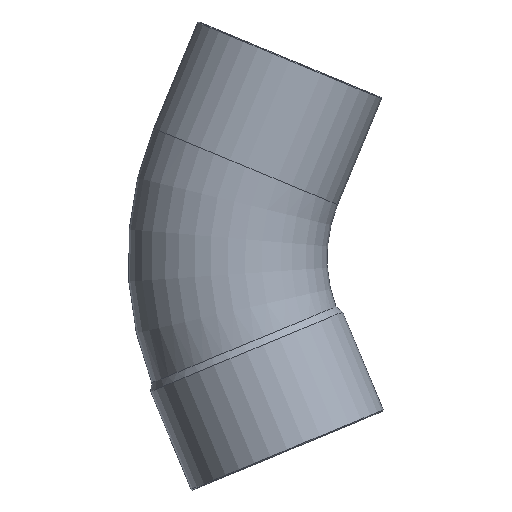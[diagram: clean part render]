
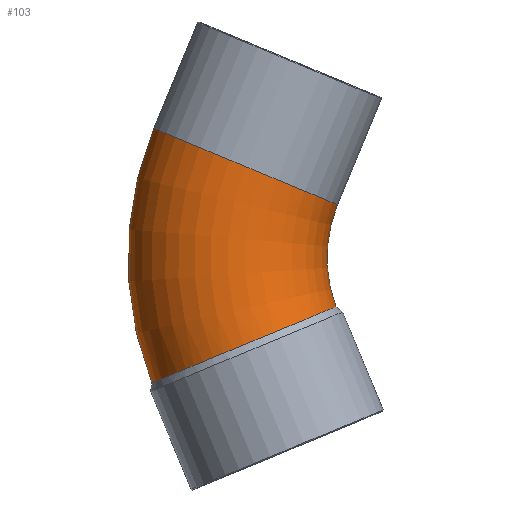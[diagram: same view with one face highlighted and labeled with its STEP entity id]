
A CAD part, front view. The second image highlights one B-rep face of the part: STEP entity #103.
In plain terms, the highlighted toroidal (fillet/blend) face has major radius 76.8 mm and minor radius 32 mm.
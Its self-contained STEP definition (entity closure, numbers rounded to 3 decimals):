
#44=CARTESIAN_POINT('',(4.435,0.,0.));
#45=DIRECTION('',(0.,1.0,0.));
#46=DIRECTION('',(-0.383,0.,0.924));
#47=AXIS2_PLACEMENT_3D('',#44,#45,#46);
#48=TOROIDAL_SURFACE('',#47,76.8,32.0);
#49=CARTESIAN_POINT('',(-96.697,0.,-40.123));
#50=VERTEX_POINT('',#49);
#51=CARTESIAN_POINT('',(-96.083,0.,41.636));
#52=VERTEX_POINT('',#51);
#53=CARTESIAN_POINT('',(4.435,0.,0.));
#54=DIRECTION('',(0.0,1.0,0.0));
#55=DIRECTION('',(0.0,0.0,1.0));
#56=AXIS2_PLACEMENT_3D('',#53,#54,#55);
#57=CIRCLE('',#56,108.8);
#58=EDGE_CURVE('',#50,#52,#57,.T.);
#59=ORIENTED_EDGE('',*,*,#58,.F.);
#60=CARTESIAN_POINT('',(-37.528,0.,-15.689));
#61=VERTEX_POINT('',#60);
#62=CARTESIAN_POINT('',(-96.697,0.,-40.123));
#63=CARTESIAN_POINT('',(-96.697,-2.359,-40.123));
#64=CARTESIAN_POINT('',(-96.456,-4.711,-40.023));
#65=CARTESIAN_POINT('',(-95.5,-9.314,-39.628));
#66=CARTESIAN_POINT('',(-94.788,-11.552,-39.333));
#67=CARTESIAN_POINT('',(-92.209,-17.451,-38.267));
#68=CARTESIAN_POINT('',(-89.898,-20.834,-37.311));
#69=CARTESIAN_POINT('',(-84.208,-26.45,-34.958));
#70=CARTESIAN_POINT('',(-80.882,-28.63,-33.583));
#71=CARTESIAN_POINT('',(-73.645,-31.489,-30.591));
#72=CARTESIAN_POINT('',(-69.803,-32.139,-29.003));
#73=CARTESIAN_POINT('',(-62.103,-31.811,-25.822));
#74=CARTESIAN_POINT('',(-58.319,-30.834,-24.26));
#75=CARTESIAN_POINT('',(-51.311,-27.367,-21.367));
#76=CARTESIAN_POINT('',(-48.152,-24.91,-20.065));
#77=CARTESIAN_POINT('',(-42.886,-18.826,-17.894));
#78=CARTESIAN_POINT('',(-40.827,-15.259,-17.046));
#79=CARTESIAN_POINT('',(-38.182,-7.732,-15.957));
#80=CARTESIAN_POINT('',(-37.528,-3.881,-15.689));
#81=CARTESIAN_POINT('',(-37.528,0.,-15.689));
#82=B_SPLINE_CURVE_WITH_KNOTS('',3,(#62,#63,#64,#65,#66,#67,#68,#69,#70,#71,#72,#73,#74,#75,#76,#77,#78,#79,#80,#81),.UNSPECIFIED.,.F.,.U.,(4,2,2,2,2,2,2,2,2,4),(-20.169,-19.461,-18.753,-17.503,-16.253,-15.002,-13.752,-12.501,-11.251,-10.086),.UNSPECIFIED.);
#83=EDGE_CURVE('',#50,#61,#82,.T.);
#84=ORIENTED_EDGE('',*,*,#83,.T.);
#85=CARTESIAN_POINT('',(-36.955,0.,17.144));
#86=VERTEX_POINT('',#85);
#87=CARTESIAN_POINT('',(4.435,0.,0.));
#88=DIRECTION('',(0.0,-1.0,0.0));
#89=DIRECTION('',(0.0,0.0,1.0));
#90=AXIS2_PLACEMENT_3D('',#87,#88,#89);
#91=CIRCLE('',#90,44.8);
#92=EDGE_CURVE('',#86,#61,#91,.T.);
#93=ORIENTED_EDGE('',*,*,#92,.F.);
#94=CARTESIAN_POINT('',(-66.519,0.,29.39));
#95=DIRECTION('',(-0.383,0.,-0.924));
#96=DIRECTION('',(-0.924,0.,0.383));
#97=AXIS2_PLACEMENT_3D('',#94,#95,#96);
#98=CIRCLE('',#97,32.0);
#99=EDGE_CURVE('',#86,#52,#98,.T.);
#100=ORIENTED_EDGE('',*,*,#99,.T.);
#101=EDGE_LOOP('',(#59,#84,#93,#100));
#102=FACE_OUTER_BOUND('',#101,.T.);
#103=ADVANCED_FACE('',(#102),#48,.T.);
